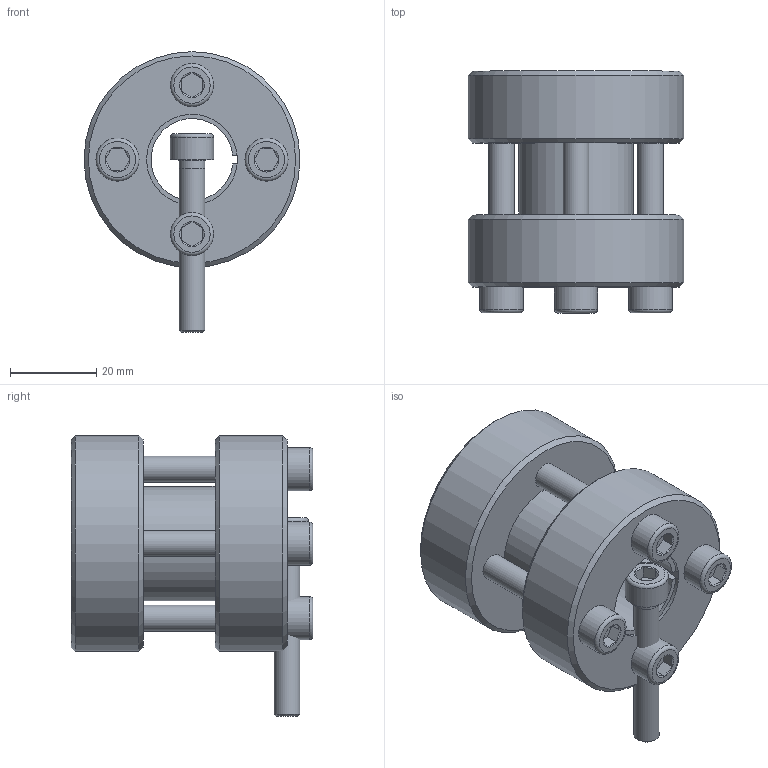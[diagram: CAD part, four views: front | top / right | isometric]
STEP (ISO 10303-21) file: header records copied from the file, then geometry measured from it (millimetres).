
FILE_DESCRIPTION( ( 'Unknown' ), '1' );
FILE_NAME( 'C:/Dokumente und Einstellungen/Sven/Desktop/homepage/cad - homepage/KBS95/KBS 95 - 19 x 50.stp', 'Unknown', ( 'Unknown' ), ( 'Unknown' ), 'XStep 1.0', 'Unknown', ' ' );
FILE_SCHEMA( ( 'automotive_design' ) );
Length unit declared in the file: millimetre
Products named in the file (3): Assem1; KBS 95 - 19 x 50; ISO EN DIN 4762 M6x40
Bounding box: 50 x 56 x 65 mm (x, y, z)
Volume: 119590.8 mm3; surface area: 41200.1 mm2
Topology: 7 solids, 7 shells, 181 faces, 379 edges, 232 vertices
Faces by surface type: plane 80, cone 47, cylinder 44, torus 10
Full cylindrical faces by diameter (mm): 5 x5, 6 x26, 10 x5, 50 x4
Entity records: 1702 total; most frequent: CARTESIAN_POINT 295, DIRECTION 252, ORIENTED_EDGE 190, AXIS2_PLACEMENT_3D 108, EDGE_LOOP 98, EDGE_CURVE 95, VERTEX_POINT 71, FACE_OUTER_BOUND 69
